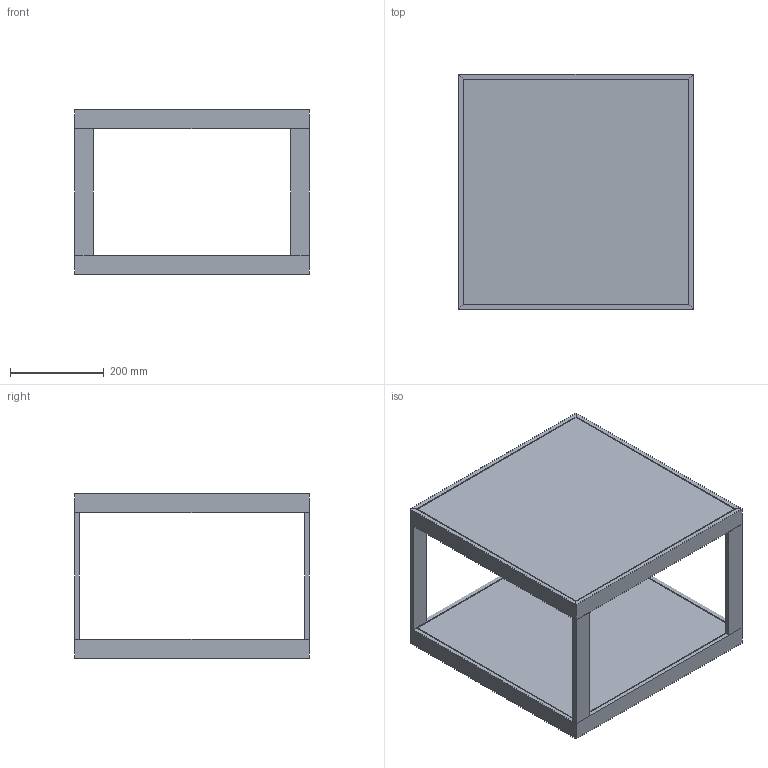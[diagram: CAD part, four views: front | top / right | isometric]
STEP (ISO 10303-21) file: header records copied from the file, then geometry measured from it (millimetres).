
FILE_DESCRIPTION(/* description */ (''),/* implementation_level */ '2;1');
FILE_NAME(/* name */ 'Easy_table50x50.stp',/* time_stamp */ '2023-04-04T10:32:00+02:00',/* author */ ('TorbjörnMalm'),/* organization */ (''),/* preprocessor_version */ 'ST-DEVELOPER v19.2',/* originating_system */ 'Autodesk Inventor 2023',/* authorisation */ '');
FILE_SCHEMA (('AUTOMOTIVE_DESIGN { 1 0 10303 214 3 1 1 }'));
Length unit declared in the file: millimetre
Products named in the file (1): Easy_table50x50
Bounding box: 500 x 500 x 350 mm (x, y, z)
Volume: 1999998.8 mm3; surface area: 1573285.9 mm2
Topology: 6 solids, 8 shells, 107 faces, 218 edges, 124 vertices
Faces by surface type: plane 107
Entity records: 2830 total; most frequent: CARTESIAN_POINT 450, ORIENTED_EDGE 436, DIRECTION 434, LINE 218, VECTOR 218, EDGE_CURVE 218, VERTEX_POINT 123, AXIS2_PLACEMENT_3D 108
